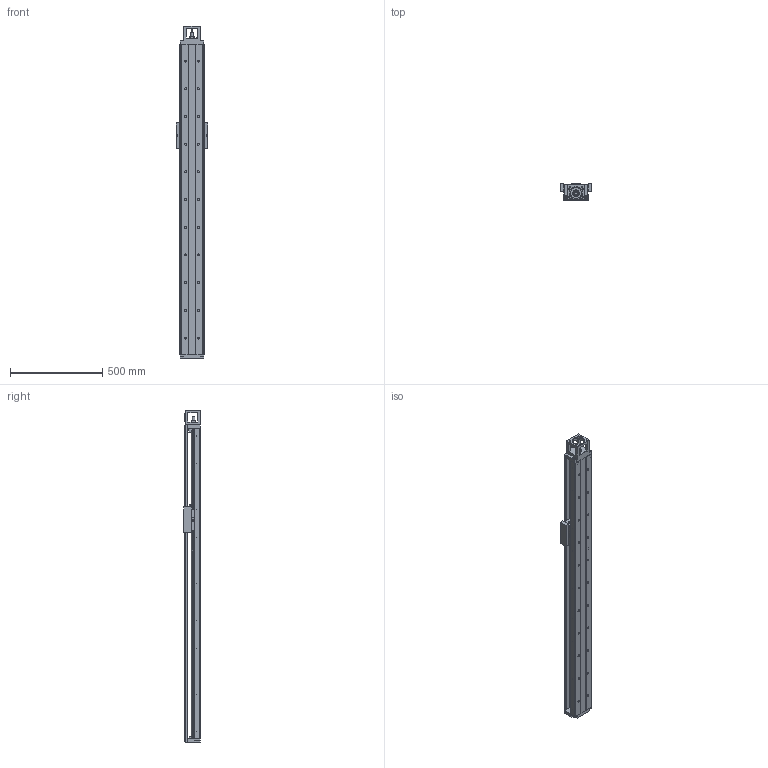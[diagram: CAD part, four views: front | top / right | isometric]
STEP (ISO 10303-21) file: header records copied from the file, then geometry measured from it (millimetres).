
FILE_DESCRIPTION(/* description */ (''),/* implementation_level */ '2;1');
FILE_NAME(/* name */ 'TKK130-1680A1F0C_stp.stp',/* time_stamp */ '2017-08-18T13:19:01+08:00',/* author */ (''),/* organization */ (''),/* preprocessor_version */ 'ST-DEVELOPER v15',/* originating_system */ 'SIEMENS PLM Software NX 8.5',/* authorisation */ '');
FILE_SCHEMA (('AUTOMOTIVE_DESIGN { 1 0 10303 214 3 1 1 1 }'));
Length unit declared in the file: millimetre
Products named in the file (3): 02250; 01151; TKK130-1680A1F0C_stp
Assembly tree (2 placements, depth 2):
  TKK130-1680A1F0C_stp
    01151
    02250
Bounding box: 170 x 92 x 1798 mm (x, y, z)
Volume: 7663965.4 mm3; surface area: 1641465.2 mm2
Topology: 2 solids, 24 shells, 1131 faces, 3045 edges, 1974 vertices
Faces by surface type: plane 622, cylinder 353, cone 116, extrusion 33, bspline 6, torus 1
Full cylindrical faces by diameter (mm): 2.1 x18, 2.5 x8, 3.3 x38, 4.5 x20, 5 x23, 6.6 x10, 6.8 x12, 7 x2, 8 x16, 8.5 x4, 9 x8, 11 x30, 12 x4, 15 x1, 16.3 x1, 17 x28, 17.5 x4, 25 x1, 35 x2, 40 x3, 60.03 x1, 70.03 x1
Entity records: 34483 total; most frequent: CARTESIAN_POINT 7400, DIRECTION 5294, ORIENTED_EDGE 4948, EDGE_CURVE 2474, AXIS2_PLACEMENT_3D 1859, VERTEX_POINT 1841, EDGE_LOOP 1621, VECTOR 1576
